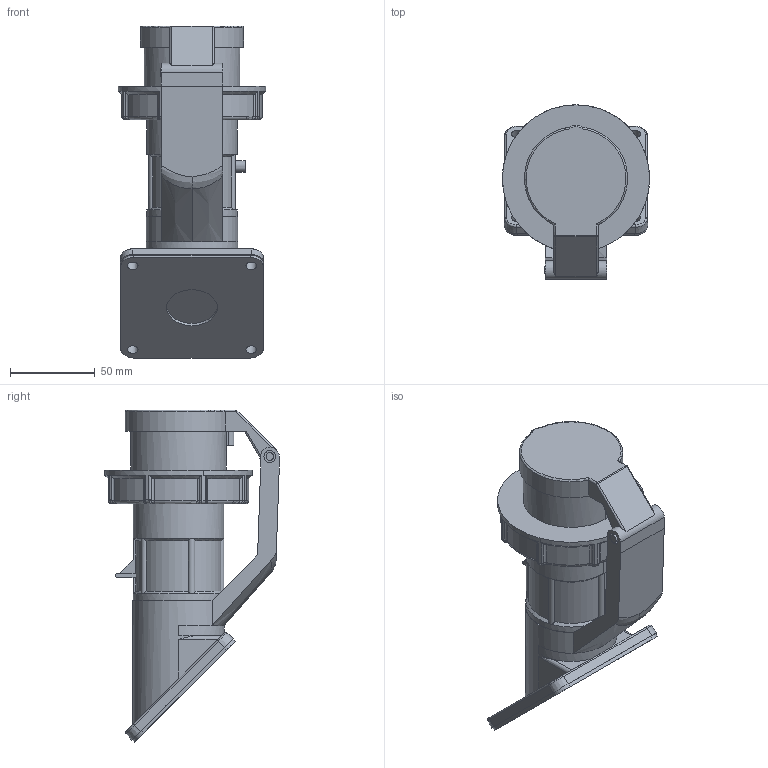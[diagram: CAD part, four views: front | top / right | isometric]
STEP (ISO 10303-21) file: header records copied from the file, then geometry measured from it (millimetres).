
FILE_DESCRIPTION((''),'2;1');
FILE_NAME('462_DUMMY_SW0001','2018-03-21T',('gisse'),('MENNEKES'),'PRO/ENGINEER BY PARAMETRIC TECHNOLOGY CORPORATION, 2015440','PRO/ENGINEER BY PARAMETRIC TECHNOLOGY CORPORATION, 2015440','');
FILE_SCHEMA(('AUTOMOTIVE_DESIGN { 1 0 10303 214 1 1 1 1 }'));
Length unit declared in the file: millimetre
Products named in the file (1): 462_DUMMY_SW0001
Bounding box: 87 x 103 x 196.14 mm (x, y, z)
Volume: 536150.8 mm3; surface area: 65851.4 mm2
Topology: 1 solids, 1 shells, 273 faces, 657 edges, 397 vertices
Faces by surface type: cylinder 109, bspline 60, plane 57, torus 23, cone 22, sphere 2
Entity records: 16150 total; most frequent: CARTESIAN_POINT 4806, ORIENTED_EDGE 1314, DIRECTION 1165, PRESENTATION_STYLE_ASSIGNMENT 910, STYLED_ITEM 658, CURVE_STYLE 657, EDGE_CURVE 657, FILL_AREA_STYLE_COLOUR 505
